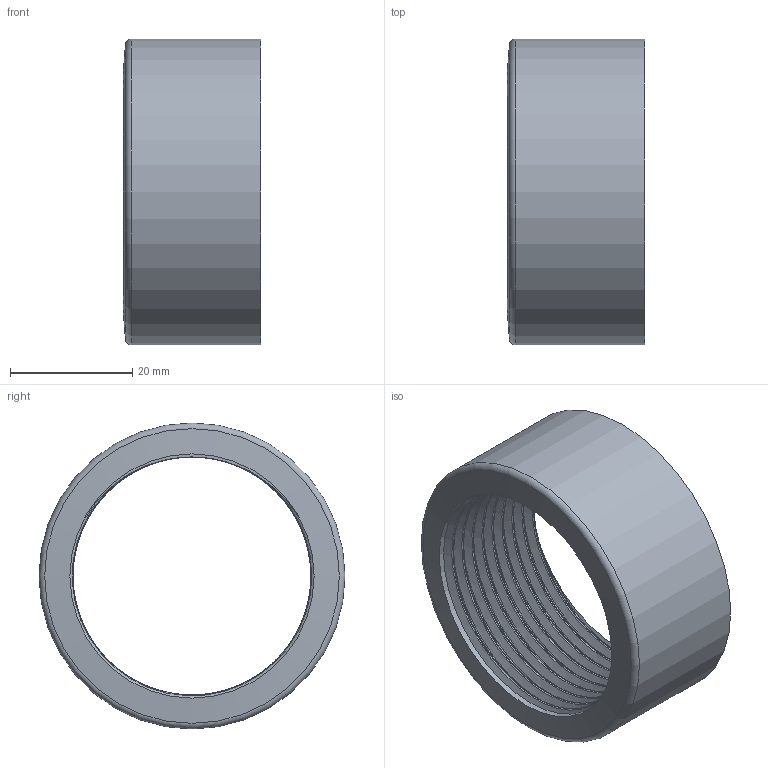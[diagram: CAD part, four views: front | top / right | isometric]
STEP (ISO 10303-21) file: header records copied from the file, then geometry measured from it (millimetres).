
FILE_DESCRIPTION(/* description */ (''),/* implementation_level */ '2;1');
FILE_NAME(/* name */ 'C:\Users\Gabriele\Desktop\disegni 3D\RB92\RB92050E.ipt.stp',/* time_stamp */ '2017-02-10T09:54:06+01:00',/* author */ ('Gabriele'),/* organization */ (''),/* preprocessor_version */ 'ST-DEVELOPER v16.5',/* originating_system */ 'Autodesk Inventor 2017',/* authorisation */ '');
FILE_SCHEMA (('AUTOMOTIVE_DESIGN { 1 0 10303 214 3 1 1 }'));
Length unit declared in the file: millimetre
Products named in the file (1): RB92050E
Bounding box: 22.4 x 50 x 50 mm (x, y, z)
Volume: 15107.3 mm3; surface area: 15416.2 mm2
Topology: 2 solids, 2 shells, 17 faces, 36 edges, 23 vertices
Faces by surface type: bspline 6, cylinder 5, plane 4, torus 1, cone 1
Full cylindrical faces by diameter (mm): 39.91 x1, 41.91 x2, 50 x1
Entity records: 4741 total; most frequent: CARTESIAN_POINT 4410, ORIENTED_EDGE 60, DIRECTION 46, EDGE_CURVE 30, EDGE_LOOP 27, VERTEX_POINT 23, AXIS2_PLACEMENT_3D 23, B_SPLINE_CURVE_WITH_KNOTS 19
